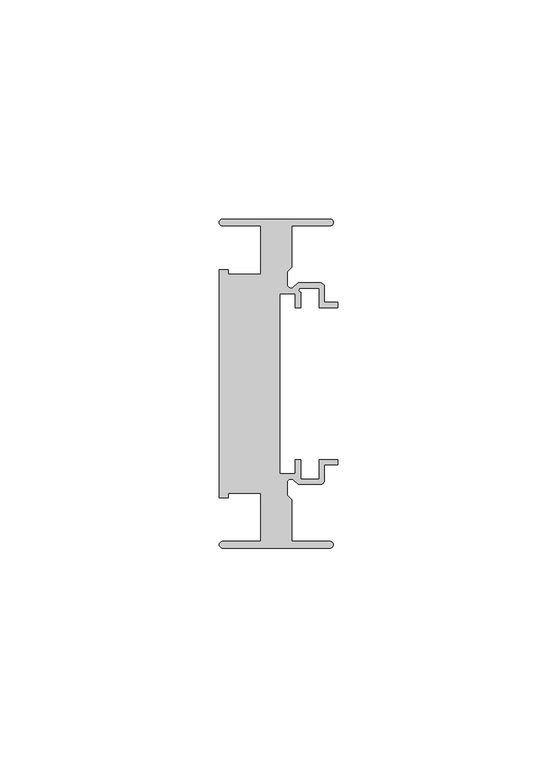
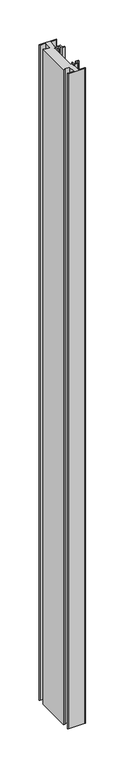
"""IFC4 building model written with IfcOpenShell, lengths in millimetres: member geometry, Прямоугольный импост : 7-AMG-2-Профиль 26Х75 Верх П."""

from ifc_helpers import new_model, si_unit, point, frame, frame_2d, origin, place, context, project, spatial, polyline, circle_curve, trimmed, segment, composite_curve, outline, extrude, source, transform, mapped, element, save


def member_83f4ae74(model_context):
    return source(origin(), model_context, "Body", "SweptSolid", [
        extrude(outline(composite_curve([segment(polyline([(-1.7, -37.5), (-26.25, -37.5)]), True, "CONTINUOUS"), segment(trimmed(circle_curve(frame_2d((-26.25, -36.75)), 0.75), [point((-26.25, -37.5))], [point((-26.25, -36.0))], False, "CARTESIAN"), True, "CONTINUOUS"), segment(polyline([(-26.25, -36.0), (-17.5, -36.0), (-17.5, -25.0), (-24.9359877, -25.0), (-24.9359877, -26.0), (-27.0, -26.0), (-27.0, 26.0), (-24.9359877, 26.0), (-24.9359877, 25.0), (-17.5, 25.0), (-17.5, 36.0), (-26.25, 36.0)]), True, "CONTINUOUS"), segment(trimmed(circle_curve(frame_2d((-26.25, 36.75)), 0.75), [point((-26.25, 36.0))], [point((-26.25, 37.5))], False, "CARTESIAN"), True, "CONTINUOUS"), segment(polyline([(-26.25, 37.5), (-1.7, 37.5)]), True, "CONTINUOUS"), segment(trimmed(circle_curve(frame_2d((-1.7, 36.75)), 0.75), [point((-1.7, 37.5))], [point((-1.7, 36.0))], False, "CARTESIAN"), True, "CONTINUOUS"), segment(polyline([(-1.7, 36.0), (-10.5, 36.0), (-10.5, 26.5029437), (-11.5, 25.5029437), (-11.5, 22.6727922)]), True, "CONTINUOUS"), segment(trimmed(circle_curve(frame_2d((-10.6, 22.6727922)), 0.9), [point((-11.5, 22.6727922))], [point((-9.9636039, 22.0363961))], True, "CARTESIAN"), True, "CONTINUOUS"), segment(polyline([(-9.9636039, 22.0363961), (-9.0, 23.0), (-4.0, 23.0)]), True, "CONTINUOUS"), segment(trimmed(circle_curve(frame_2d((-4.0, 22.0)), 1.0), [point((-4.0, 23.0))], [point((-3.0, 22.0))], False, "CARTESIAN"), True, "CONTINUOUS"), segment(polyline([(-3.0, 22.0), (-3.0, 18.55), (0.0, 18.55), (0.0, 17.35), (-4.2, 17.35), (-4.2, 21.8), (-8.5029437, 21.8)]), True, "CONTINUOUS"), segment(trimmed(circle_curve(frame_2d((-8.3343131, 21.3314262)), 0.4979937), [point((-8.5029437, 21.8))], [point((-8.45, 20.8470563))], True, "CARTESIAN"), True, "CONTINUOUS"), segment(polyline([(-8.45, 20.8470563), (-8.45, 17.35), (-9.65, 17.35), (-9.65, 20.55), (-13.15, 20.55), (-13.15, -20.55), (-9.65, -20.55), (-9.65, -17.35), (-8.45, -17.35), (-8.45, -21.8), (-4.2, -21.8), (-4.2, -17.35), (0.0, -17.35), (0.0, -18.55), (-3.0, -18.55), (-3.0, -22.0)]), True, "CONTINUOUS"), segment(trimmed(circle_curve(frame_2d((-4.0, -22.0)), 1.0), [point((-3.0, -22.0))], [point((-4.0, -23.0))], False, "CARTESIAN"), True, "CONTINUOUS"), segment(polyline([(-4.0, -23.0), (-9.0, -23.0), (-9.9636039, -22.0363961)]), True, "CONTINUOUS"), segment(trimmed(circle_curve(frame_2d((-10.6, -22.6727922)), 0.9), [point((-9.9636039, -22.0363961))], [point((-11.5, -22.6727922))], True, "CARTESIAN"), True, "CONTINUOUS"), segment(polyline([(-11.5, -22.6727922), (-11.5, -25.5029437), (-10.5, -26.5029437), (-10.5, -36.0), (-1.7, -36.0)]), True, "CONTINUOUS"), segment(trimmed(circle_curve(frame_2d((-1.7, -36.75)), 0.75), [point((-1.7, -36.0))], [point((-1.7, -37.5))], False, "CARTESIAN"), True, "CONTINUOUS")], self_intersect=False)), frame((0.0, 0.0, -1025.4988789), z_axis=(0.0, 0.0, 1.0), x_axis=(1.0, 0.0, 0.0)), (0.0, 0.0, 1.0), 1025.4988789),
    ])


if __name__ == "__main__":
    model = new_model("IFC4")
    model_context = context("Model", 3, world=origin())
    ifc_project = project(units=[si_unit("LENGTHUNIT", "METRE", prefix="MILLI")], contexts=[model_context])
    site = spatial("IfcSite", under=ifc_project)
    building = spatial("IfcBuilding", under=site)
    placement = place(None, origin())
    member_shape = member_83f4ae74(model_context)
    element("IfcMember", 1, ObjectType="Прямоугольный импост : 7-AMG-2-Профиль 26Х75 Верх П", at=placement, inside=building, context=model_context, shape_type="MappedRepresentation", body=[
        mapped(member_shape, transform((0.0, 0.0, 0.0), x_axis=(1.0, 0.0, 0.0), y_axis=(0.0, 1.0, 0.0), z_axis=(0.0, 0.0, 1.0))),
    ])
    save(model, "model.ifc")
